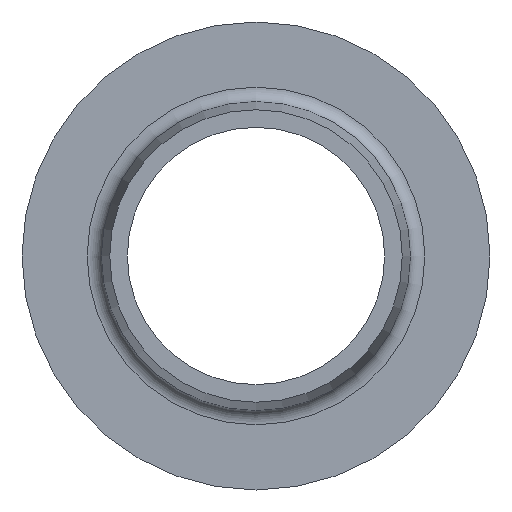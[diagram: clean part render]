
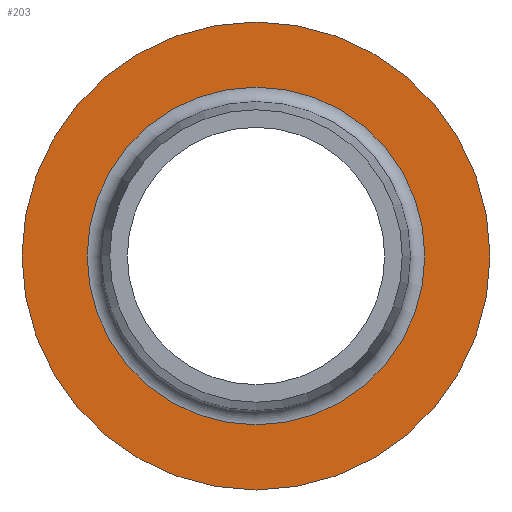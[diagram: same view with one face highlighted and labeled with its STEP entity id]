
A CAD part, left-side view. The second image highlights one B-rep face of the part: STEP entity #203.
In plain terms, the highlighted planar face has unit normal (-1, 0, 0).
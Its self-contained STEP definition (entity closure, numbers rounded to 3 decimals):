
#12=PLANE($,#227);
#29=FACE_BOUND($,#67,.T.);
#50=FACE_OUTER_BOUND($,#66,.T.);
#66=EDGE_LOOP($,(#151));
#67=EDGE_LOOP($,(#152));
#97=CIRCLE($,#226,28.861);
#98=CIRCLE($,#228,40.);
#114=VERTEX_POINT($,#334);
#115=VERTEX_POINT($,#337);
#131=EDGE_CURVE($,#114,#114,#97,.T.);
#132=EDGE_CURVE($,#115,#115,#98,.T.);
#151=ORIENTED_EDGE($,*,*,#132,.F.);
#152=ORIENTED_EDGE($,*,*,#131,.T.);
#203=ADVANCED_FACE($,(#50,#29),#12,.T.);
#226=AXIS2_PLACEMENT_3D($,#335,#268,#269);
#227=AXIS2_PLACEMENT_3D($,#336,#270,#271);
#228=AXIS2_PLACEMENT_3D($,#338,#272,#273);
#268=DIRECTION('center_axis',(1.,0.,0.));
#269=DIRECTION('ref_axis',(0.,1.,0.));
#270=DIRECTION('center_axis',(-1.,0.,0.));
#271=DIRECTION('ref_axis',(0.,0.,1.));
#272=DIRECTION('center_axis',(1.,0.,0.));
#273=DIRECTION('ref_axis',(0.,1.,0.));
#334=CARTESIAN_POINT('',(52.,28.861,0.));
#335=CARTESIAN_POINT('Origin',(52.,0.,0.));
#336=CARTESIAN_POINT('Origin',(52.,34.431,0.));
#337=CARTESIAN_POINT('',(52.,40.,0.));
#338=CARTESIAN_POINT('Origin',(52.,0.,0.));
